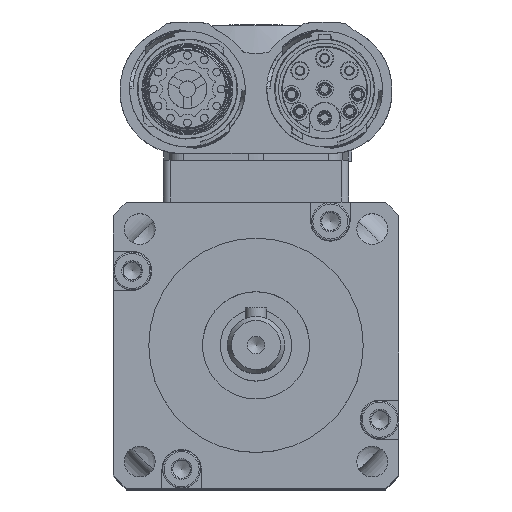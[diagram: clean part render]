
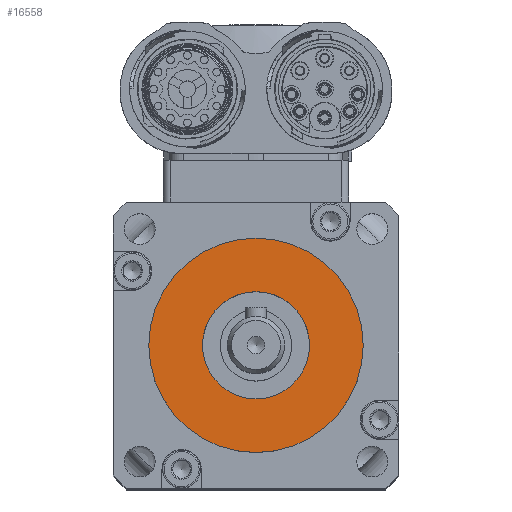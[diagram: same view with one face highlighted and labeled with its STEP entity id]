
A CAD part, top view. The second image highlights one B-rep face of the part: STEP entity #16558.
In plain terms, the highlighted planar face has unit normal (0, 0, 1).
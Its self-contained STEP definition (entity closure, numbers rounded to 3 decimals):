
#3467=PLANE('',#17692);
#3912=FACE_BOUND('',#5424,.T.);
#3913=FACE_BOUND('',#5425,.T.);
#5424=EDGE_LOOP('',(#11728));
#5425=EDGE_LOOP('',(#11729));
#6891=CIRCLE('',#17688,7.5);
#6892=CIRCLE('',#17690,15.);
#7777=VERTEX_POINT('',#24548);
#7778=VERTEX_POINT('',#24551);
#9424=EDGE_CURVE('',#7777,#7777,#6891,.T.);
#9425=EDGE_CURVE('',#7778,#7778,#6892,.T.);
#11728=ORIENTED_EDGE('',*,*,#9424,.T.);
#11729=ORIENTED_EDGE('',*,*,#9425,.T.);
#16558=ADVANCED_FACE('',(#3912,#3913),#3467,.T.);
#17688=AXIS2_PLACEMENT_3D('',#24549,#19750,#19751);
#17690=AXIS2_PLACEMENT_3D('',#24552,#19754,#19755);
#17692=AXIS2_PLACEMENT_3D('',#24555,#19758,#19759);
#19750=DIRECTION('center_axis',(0.,0.,-1.));
#19751=DIRECTION('ref_axis',(-1.,0.,0.));
#19754=DIRECTION('center_axis',(0.,0.,1.));
#19755=DIRECTION('ref_axis',(-1.,0.,0.));
#19758=DIRECTION('center_axis',(0.,0.,1.));
#19759=DIRECTION('ref_axis',(1.,0.,0.));
#24548=CARTESIAN_POINT('',(7.5,0.,33.5));
#24549=CARTESIAN_POINT('Origin',(0.,0.,33.5));
#24551=CARTESIAN_POINT('',(15.,0.,33.5));
#24552=CARTESIAN_POINT('Origin',(0.,0.,33.5));
#24555=CARTESIAN_POINT('Origin',(0.,0.,
33.5));
